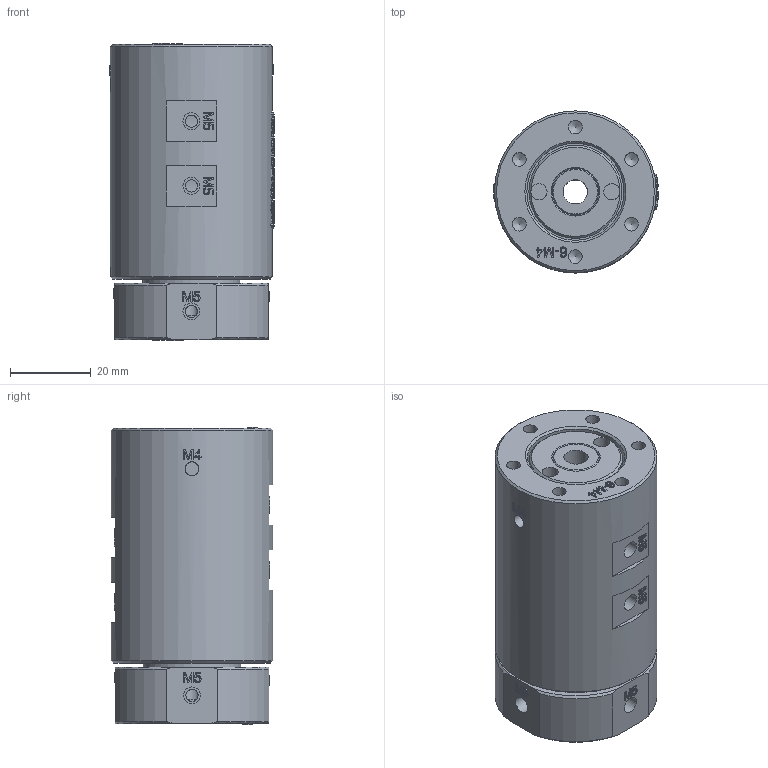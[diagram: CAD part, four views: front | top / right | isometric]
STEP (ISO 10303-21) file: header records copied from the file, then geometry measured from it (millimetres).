
FILE_DESCRIPTION(/* description */ (''),/* implementation_level */ '2;1');
FILE_NAME(/* name */ 'YQ04005-3D模型.stp',/* time_stamp */ '2025-09-01T13:40:13+08:00',/* author */ (''),/* organization */ (''),/* preprocessor_version */ 'ST-DEVELOPER v16.7',/* originating_system */ 'SIEMENS PLM Software NX 12.0',/* authorisation */ '');
FILE_SCHEMA (('AUTOMOTIVE_DESIGN { 1 0 10303 214 3 1 1 1 }'));
Products named in the file (1): Admi441CC3E1w2o5
Bounding box: 40.7 x 40 x 73.4 mm (x, y, z)
Volume: 84810.2 mm3; surface area: 19642.5 mm2
Topology: 1 solids, 2 shells, 1317 faces, 3630 edges, 2417 vertices
Faces by surface type: extrusion 621, plane 536, cylinder 77, bspline 57, cone 26
Full cylindrical faces by diameter (mm): 3 x8, 3.4 x12, 4 x6, 4.1 x4, 4.2 x12, 6 x1, 10 x1, 11 x1, 18 x1, 23 x1, 24 x2, 32 x1, 40 x1
Entity records: 51523 total; most frequent: CARTESIAN_POINT 23423, ORIENTED_EDGE 7006, EDGE_CURVE 3503, DIRECTION 3166, B_SPLINE_CURVE_WITH_KNOTS 3153, VERTEX_POINT 2373, EDGE_LOOP 1502, ADVANCED_FACE 1317
